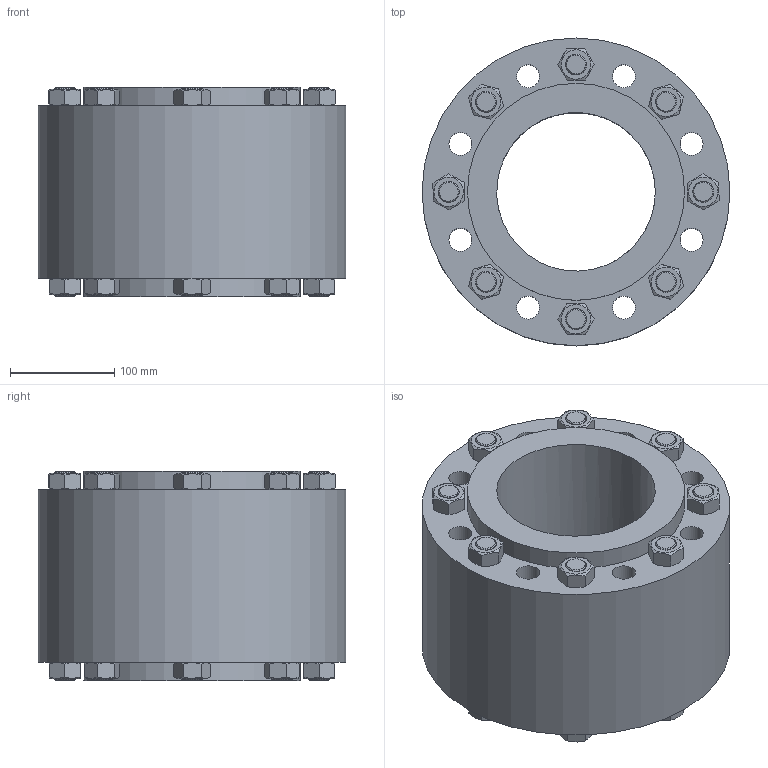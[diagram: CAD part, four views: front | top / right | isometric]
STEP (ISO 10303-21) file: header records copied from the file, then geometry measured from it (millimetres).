
FILE_DESCRIPTION(/* description */ ('ACI TYPE 620 DN150'),/* implementation_level */ '2;1');
FILE_NAME(/* name */ 'C:\Users\willms\Desktop\ACI-620-150.stp',/* time_stamp */ '2020-03-19T10:32:11+01:00',/* author */ ('götz'),/* organization */ ('ACI Industriearmaturen GmbH www.aci24.com info@aci24.com'),/* preprocessor_version */ 'ST-DEVELOPER v16.1',/* originating_system */ 'Autodesk Inventor 2016',/* authorisation */ 'ACI Industriearmaturen GmbH www.aci24.com info@aci24.com');
FILE_SCHEMA (('CONFIG_CONTROL_DESIGN'));
Length unit declared in the file: centimetre
Products named in the file (1): ACI-620-150
Bounding box: 295 x 295 x 201 mm (x, y, z)
Volume: 8555552.9 mm3; surface area: 487948.2 mm2
Topology: 1 solids, 17 shells, 272 faces, 613 edges, 393 vertices
Faces by surface type: plane 148, cone 80, cylinder 44
Full cylindrical faces by diameter (mm): 20 x32, 22 x8, 152 x1, 208 x2, 295 x1
Entity records: 6782 total; most frequent: CARTESIAN_POINT 1473, DIRECTION 978, ORIENTED_EDGE 912, EDGE_LOOP 464, EDGE_CURVE 456, AXIS2_PLACEMENT_3D 441, VERTEX_POINT 360, FACE_OUTER_BOUND 272
